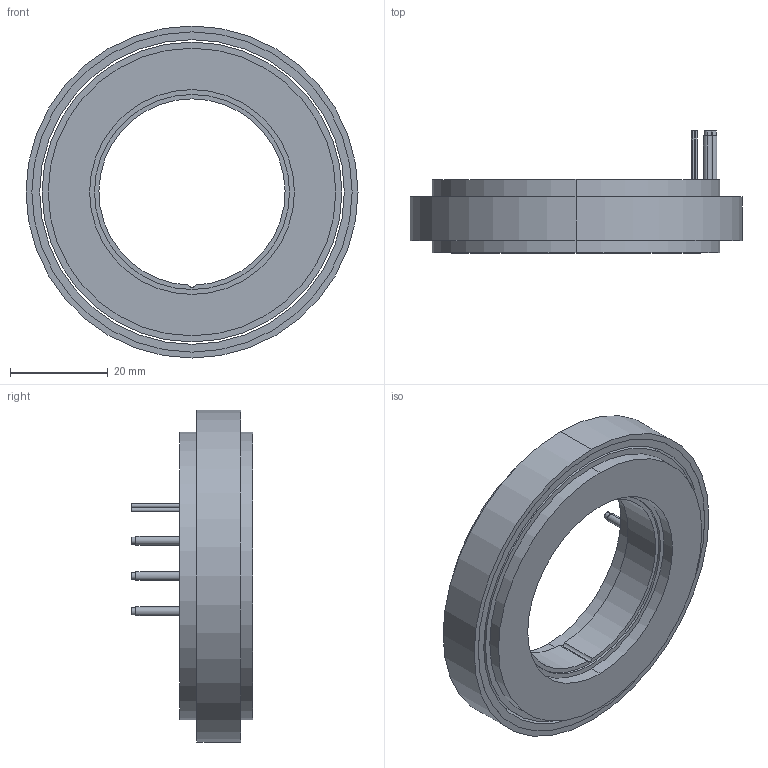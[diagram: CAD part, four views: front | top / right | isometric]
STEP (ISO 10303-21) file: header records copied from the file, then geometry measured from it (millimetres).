
FILE_DESCRIPTION (( 'STEP AP214' ), '1' );
FILE_NAME ('UE6815µç»ú.STEP', '2026-03-10T08:16:19', ( 'Windows User' ), ( 'P R C' ), 'SwSTEP 2.0', 'SolidWorks 2023', '' );
FILE_SCHEMA (( 'AUTOMOTIVE_DESIGN' ));
Length unit declared in the file: millimetre
Products named in the file (1): UE6815电机
Bounding box: 68.1 x 25 x 68.1 mm (x, y, z)
Volume: 29644.7 mm3; surface area: 13438.3 mm2
Topology: 2 solids, 2 shells, 61 faces, 123 edges, 82 vertices
Faces by surface type: cylinder 41, plane 20
Entity records: 1679 total; most frequent: DIRECTION 329, CARTESIAN_POINT 267, ORIENTED_EDGE 246, AXIS2_PLACEMENT_3D 144, EDGE_CURVE 123, CIRCLE 82, VERTEX_POINT 82, EDGE_LOOP 81
